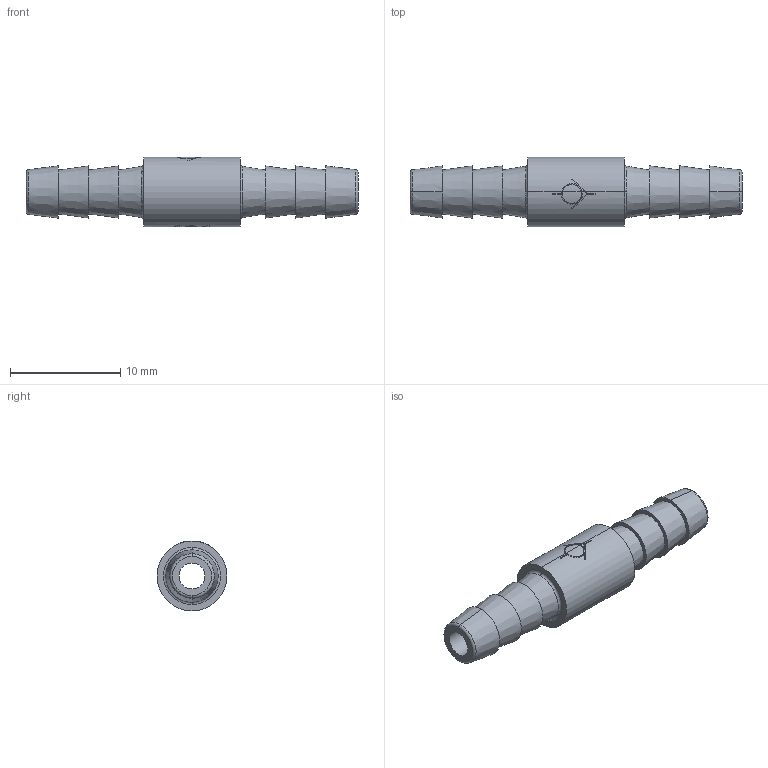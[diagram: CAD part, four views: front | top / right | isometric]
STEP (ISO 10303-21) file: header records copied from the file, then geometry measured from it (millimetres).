
FILE_DESCRIPTION(/* description */ ('SolidWorks IGES file using NURBS representation for surfaces '),/* implementation_level */ '2;1');
FILE_NAME(/* name */ 'K:\Normteile INVENTOR\Air-Logic\Check Valves\F-2804-401-B85.IGS.ipt.stp',/* time_stamp */ '2020-05-27T10:36:01+02:00',/* author */ ('amarsh'),/* organization */ (''),/* preprocessor_version */ 'ST-DEVELOPER v18',/* originating_system */ 'Autodesk Inventor 2020',/* authorisation */ '');
FILE_SCHEMA (('AUTOMOTIVE_DESIGN { 1 0 10303 214 3 1 1 }'));
Length unit declared in the file: millimetre
Products named in the file (1): F-2804-401-B85.IGS
Bounding box: 30.15 x 6.35 x 6.35 mm (x, y, z)
Surface area: 767.6 mm2 (no closed solid volume)
Topology: 0 solids, 2 shells, 90 faces, 246 edges, 168 vertices
Faces by surface type: plane 31, bspline 27, cylinder 14, cone 10, torus 8
Full cylindrical faces by diameter (mm): 2.36 x1
Entity records: 5146 total; most frequent: CARTESIAN_POINT 2929, ORIENTED_EDGE 484, DIRECTION 390, EDGE_CURVE 246, VERTEX_POINT 168, AXIS2_PLACEMENT_3D 148, EDGE_LOOP 102, LINE 94
